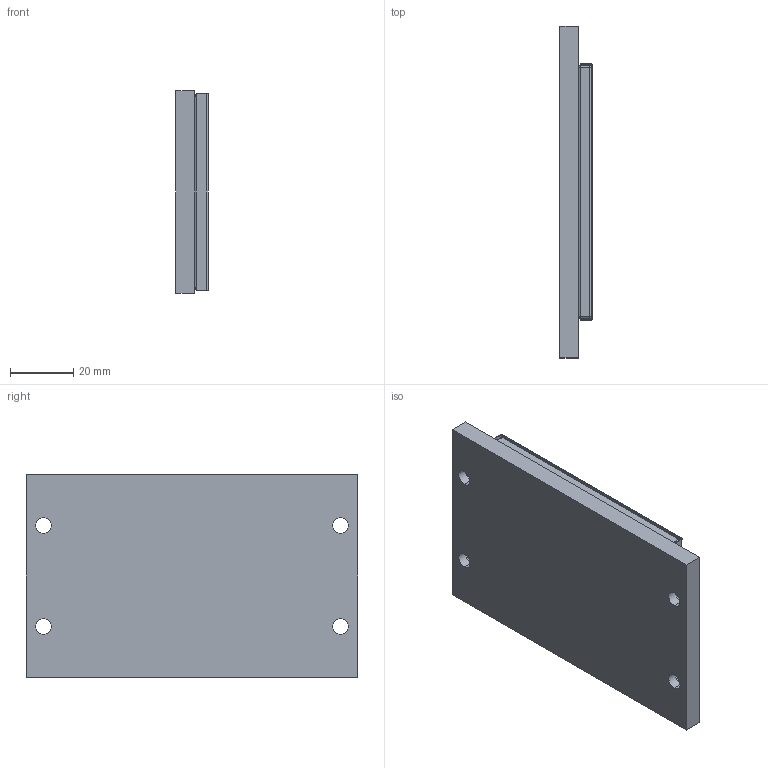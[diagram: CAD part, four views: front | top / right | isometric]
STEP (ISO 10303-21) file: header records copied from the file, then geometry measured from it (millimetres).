
FILE_DESCRIPTION (( 'STEP AP214' ), '1' );
FILE_NAME ('PIXM080-TL064-C.STEP', '2019-03-08T10:35:12', ( '' ), ( '' ), 'SwSTEP 2.0', 'SolidWorks 2016', '' );
FILE_SCHEMA (( 'AUTOMOTIVE_DESIGN' ));
Length unit declared in the file: millimetre
Products named in the file (4): 001SM080000001-CUSTOMER_TL064; 001SM080LXXX02_TL064; PIXM080-TL064-C; 001SM080LXXX01_TL64
Assembly tree (3 placements, depth 2):
  PIXM080-TL064-C
    001SM080LXXX01_TL64
    001SM080000001-CUSTOMER_TL064
    001SM080LXXX02_TL064
Bounding box: 10.3 x 105 x 64 mm (x, y, z)
Volume: 60694.6 mm3; surface area: 37713.2 mm2
Topology: 3 solids, 3 shells, 85 faces, 190 edges, 108 vertices
Faces by surface type: plane 45, cylinder 32, sphere 8
Entity records: 2430 total; most frequent: DIRECTION 428, CARTESIAN_POINT 381, ORIENTED_EDGE 364, EDGE_CURVE 182, AXIS2_PLACEMENT_3D 155, LINE 118, VECTOR 118, VERTEX_POINT 108
